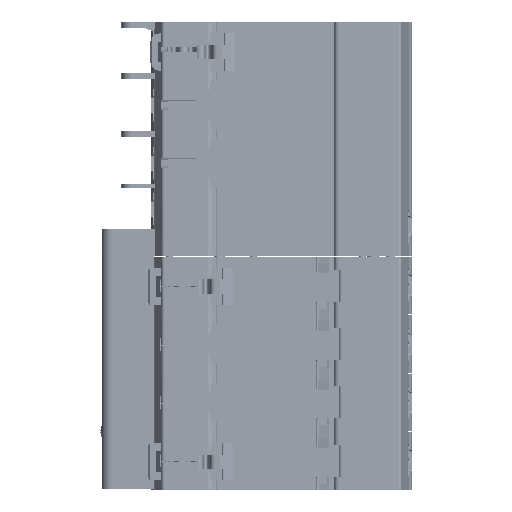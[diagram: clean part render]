
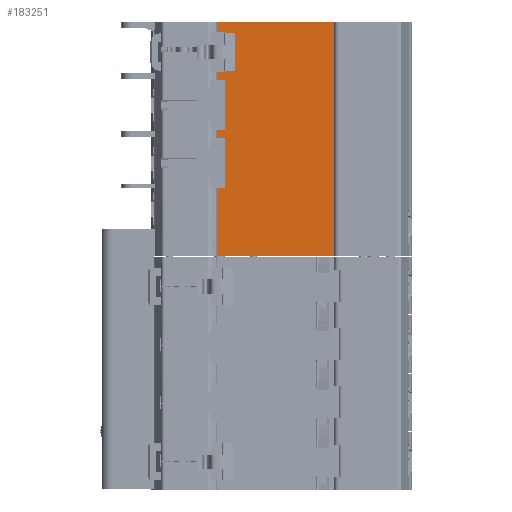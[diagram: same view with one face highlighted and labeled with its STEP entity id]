
A CAD part, front view. The second image highlights one B-rep face of the part: STEP entity #183251.
In plain terms, the highlighted planar face has unit normal (0, -1, 0).
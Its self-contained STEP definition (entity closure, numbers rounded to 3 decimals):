
#4654=DIRECTION('',(0.,0.,1.));
#4655=VECTOR('',#4654,71.1);
#4656=CARTESIAN_POINT('',(39.8,-37.,-14.4));
#4657=LINE('',#4656,#4655);
#4666=DIRECTION('',(1.,0.,0.));
#4667=VECTOR('',#4666,0.158);
#4668=CARTESIAN_POINT('',(5.4,-37.,53.25));
#4669=LINE('',#4668,#4667);
#4670=DIRECTION('',(-1.,0.,0.));
#4671=VECTOR('',#4670,2.6);
#4672=CARTESIAN_POINT('',(5.4,-37.,53.6));
#4673=LINE('',#4672,#4671);
#4674=DIRECTION('',(0.,0.,1.));
#4675=VECTOR('',#4674,3.1);
#4676=CARTESIAN_POINT('',(2.8,-37.,53.6));
#4677=LINE('',#4676,#4675);
#4678=DIRECTION('',(1.,0.,0.));
#4679=VECTOR('',#4678,37.);
#4680=CARTESIAN_POINT('',(2.8,-37.,56.7));
#4681=LINE('',#4680,#4679);
#4682=DIRECTION('',(-1.,0.,0.));
#4683=VECTOR('',#4682,37.);
#4684=CARTESIAN_POINT('',(39.8,-37.,-14.4));
#4685=LINE('',#4684,#4683);
#4686=DIRECTION('',(-1.,0.,0.));
#4687=VECTOR('',#4686,2.6);
#4688=CARTESIAN_POINT('',(5.4,-37.,21.4));
#4689=LINE('',#4688,#4687);
#4690=DIRECTION('',(0.,0.,1.));
#4691=VECTOR('',#4690,2.6);
#4692=CARTESIAN_POINT('',(2.8,-37.,21.4));
#4693=LINE('',#4692,#4691);
#4694=DIRECTION('',(-1.,0.,0.));
#4695=VECTOR('',#4694,2.6);
#4696=CARTESIAN_POINT('',(5.4,-37.,39.));
#4697=LINE('',#4696,#4695);
#4698=DIRECTION('',(0.,0.,1.));
#4699=VECTOR('',#4698,2.6);
#4700=CARTESIAN_POINT('',(2.8,-37.,39.));
#4701=LINE('',#4700,#4699);
#4702=DIRECTION('',(1.,0.,0.));
#4703=VECTOR('',#4702,0.158);
#4704=CARTESIAN_POINT('',(5.4,-37.,41.95));
#4705=LINE('',#4704,#4703);
#4706=DIRECTION('',(0.,0.,-1.));
#4707=VECTOR('',#4706,11.3);
#4708=CARTESIAN_POINT('',(5.558,-37.,53.25));
#4709=LINE('',#4708,#4707);
#4816=DIRECTION('',(0.,0.,-1.));
#4817=VECTOR('',#4816,0.35);
#4818=CARTESIAN_POINT('',(5.4,-37.,41.95));
#4819=LINE('',#4818,#4817);
#4820=DIRECTION('',(0.,0.,-1.));
#4821=VECTOR('',#4820,0.35);
#4822=CARTESIAN_POINT('',(5.4,-37.,53.6));
#4823=LINE('',#4822,#4821);
#5439=DIRECTION('',(-1.,0.,0.));
#5440=VECTOR('',#5439,2.6);
#5441=CARTESIAN_POINT('',(5.4,-37.,41.6));
#5442=LINE('',#5441,#5440);
#5577=DIRECTION('',(0.,0.,-1.));
#5578=VECTOR('',#5577,15.);
#5579=CARTESIAN_POINT('',(5.4,-37.,39.));
#5580=LINE('',#5579,#5578);
#5609=DIRECTION('',(-1.,0.,0.));
#5610=VECTOR('',#5609,2.6);
#5611=CARTESIAN_POINT('',(5.4,-37.,24.));
#5612=LINE('',#5611,#5610);
#5972=DIRECTION('',(0.,0.,-1.));
#5973=VECTOR('',#5972,15.);
#5974=CARTESIAN_POINT('',(5.4,-37.,21.4));
#5975=LINE('',#5974,#5973);
#5988=DIRECTION('',(-1.,0.,0.));
#5989=VECTOR('',#5988,2.6);
#5990=CARTESIAN_POINT('',(5.4,-37.,6.4));
#5991=LINE('',#5990,#5989);
#6021=DIRECTION('',(0.,0.,-1.));
#6022=VECTOR('',#6021,20.8);
#6023=CARTESIAN_POINT('',(2.8,-37.,6.4));
#6024=LINE('',#6023,#6022);
#138737=CARTESIAN_POINT('',(2.8,-37.,-14.4));
#138738=VERTEX_POINT('',#138737);
#138739=CARTESIAN_POINT('',(39.8,-37.,-14.4));
#138740=VERTEX_POINT('',#138739);
#140397=CARTESIAN_POINT('',(5.4,-37.,6.4));
#140398=CARTESIAN_POINT('',(2.8,-37.,6.4));
#140399=VERTEX_POINT('',#140397);
#140400=VERTEX_POINT('',#140398);
#141126=CARTESIAN_POINT('',(5.4,-37.,24.));
#141127=VERTEX_POINT('',#141126);
#141128=CARTESIAN_POINT('',(2.8,-37.,24.));
#141129=VERTEX_POINT('',#141128);
#141162=CARTESIAN_POINT('',(2.8,-37.,21.4));
#141163=VERTEX_POINT('',#141162);
#141164=CARTESIAN_POINT('',(5.4,-37.,21.4));
#141165=VERTEX_POINT('',#141164);
#141634=CARTESIAN_POINT('',(5.4,-37.,41.6));
#141635=VERTEX_POINT('',#141634);
#141636=CARTESIAN_POINT('',(2.8,-37.,41.6));
#141637=VERTEX_POINT('',#141636);
#141670=CARTESIAN_POINT('',(2.8,-37.,39.));
#141671=VERTEX_POINT('',#141670);
#141672=CARTESIAN_POINT('',(5.4,-37.,39.));
#141673=VERTEX_POINT('',#141672);
#142955=CARTESIAN_POINT('',(39.8,-37.,56.7));
#142956=VERTEX_POINT('',#142955);
#142957=CARTESIAN_POINT('',(2.8,-37.,56.7));
#142958=VERTEX_POINT('',#142957);
#143073=CARTESIAN_POINT('',(2.8,-37.,53.6));
#143074=VERTEX_POINT('',#143073);
#143075=CARTESIAN_POINT('',(5.4,-37.,53.6));
#143076=VERTEX_POINT('',#143075);
#147344=CARTESIAN_POINT('',(5.4,-37.,53.25));
#147345=CARTESIAN_POINT('',(5.558,-37.,53.25));
#147346=VERTEX_POINT('',#147344);
#147347=VERTEX_POINT('',#147345);
#147348=CARTESIAN_POINT('',(5.4,-37.,41.95));
#147349=CARTESIAN_POINT('',(5.558,-37.,41.95));
#147350=VERTEX_POINT('',#147348);
#147351=VERTEX_POINT('',#147349);
#183206=CARTESIAN_POINT('',(2.8,-37.,0.));
#183207=DIRECTION('',(0.,-1.,0.));
#183208=DIRECTION('',(1.,0.,0.));
#183209=AXIS2_PLACEMENT_3D('',#183206,#183207,#183208);
#183210=PLANE('',#183209);
#183212=ORIENTED_EDGE('',*,*,#183211,.F.);
#183214=ORIENTED_EDGE('',*,*,#183213,.F.);
#183216=ORIENTED_EDGE('',*,*,#183215,.T.);
#183218=ORIENTED_EDGE('',*,*,#183217,.T.);
#183220=ORIENTED_EDGE('',*,*,#183219,.T.);
#183221=ORIENTED_EDGE('',*,*,#183197,.F.);
#183222=ORIENTED_EDGE('',*,*,#179791,.T.);
#183224=ORIENTED_EDGE('',*,*,#183223,.F.);
#183226=ORIENTED_EDGE('',*,*,#183225,.F.);
#183228=ORIENTED_EDGE('',*,*,#183227,.F.);
#183230=ORIENTED_EDGE('',*,*,#183229,.T.);
#183232=ORIENTED_EDGE('',*,*,#183231,.T.);
#183234=ORIENTED_EDGE('',*,*,#183233,.F.);
#183236=ORIENTED_EDGE('',*,*,#183235,.F.);
#183238=ORIENTED_EDGE('',*,*,#183237,.T.);
#183240=ORIENTED_EDGE('',*,*,#183239,.T.);
#183242=ORIENTED_EDGE('',*,*,#183241,.F.);
#183244=ORIENTED_EDGE('',*,*,#183243,.F.);
#183246=ORIENTED_EDGE('',*,*,#183245,.T.);
#183248=ORIENTED_EDGE('',*,*,#183247,.F.);
#183249=EDGE_LOOP('',(#183212,#183214,#183216,#183218,#183220,#183221,#183222,
#183224,#183226,#183228,#183230,#183232,#183234,#183236,#183238,#183240,#183242,
#183244,#183246,#183248));
#183250=FACE_OUTER_BOUND('',#183249,.F.);
#183251=ADVANCED_FACE('',(#183250),#183210,.T.);
#179791=EDGE_CURVE('',#138740,#138738,#4685,.T.);
#183197=EDGE_CURVE('',#138740,#142956,#4657,.T.);
#183211=EDGE_CURVE('',#147346,#147347,#4669,.T.);
#183213=EDGE_CURVE('',#143076,#147346,#4823,.T.);
#183215=EDGE_CURVE('',#143076,#143074,#4673,.T.);
#183217=EDGE_CURVE('',#143074,#142958,#4677,.T.);
#183219=EDGE_CURVE('',#142958,#142956,#4681,.T.);
#183223=EDGE_CURVE('',#140400,#138738,#6024,.T.);
#183225=EDGE_CURVE('',#140399,#140400,#5991,.T.);
#183227=EDGE_CURVE('',#141165,#140399,#5975,.T.);
#183229=EDGE_CURVE('',#141165,#141163,#4689,.T.);
#183231=EDGE_CURVE('',#141163,#141129,#4693,.T.);
#183233=EDGE_CURVE('',#141127,#141129,#5612,.T.);
#183235=EDGE_CURVE('',#141673,#141127,#5580,.T.);
#183237=EDGE_CURVE('',#141673,#141671,#4697,.T.);
#183239=EDGE_CURVE('',#141671,#141637,#4701,.T.);
#183241=EDGE_CURVE('',#141635,#141637,#5442,.T.);
#183243=EDGE_CURVE('',#147350,#141635,#4819,.T.);
#183245=EDGE_CURVE('',#147350,#147351,#4705,.T.);
#183247=EDGE_CURVE('',#147347,#147351,#4709,.T.);
